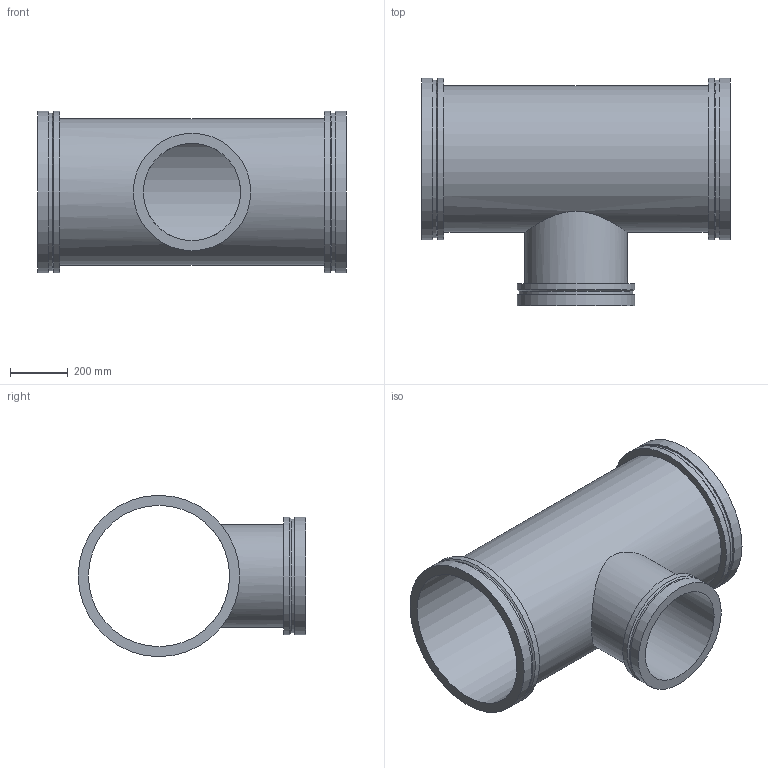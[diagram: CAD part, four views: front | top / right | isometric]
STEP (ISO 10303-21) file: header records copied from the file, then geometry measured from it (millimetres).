
FILE_DESCRIPTION(/* description */ ('VIC REDUCING TEE No W025 VR','CAx-IF Rec.Pracs.---Representation and Presentation of Product Manufacturing Information (PMI)---4.0---2014-10-13'),/* implementation_level */ '2;1');
FILE_NAME(/* name */ 'C:\Users\kkamble\AppData\Roaming\Autodesk\ApplicationPlugins\Back Up\Victaulic_Vic-Ring_Tee Reducing_No W25 VR (AGR)\Victaulic_Vic-Ring_Tee Reducing_No W25 VR (AGR)_20.0x14.0 (500x350).stp',/* time_stamp */ '2020-09-10T11:52:50+05:00',/* author */ ('mchristi'),/* organization */ ('Victaulic'),/* preprocessor_version */ 'ST-DEVELOPER v17.2',/* originating_system */ 'Autodesk Inventor 2019',/* authorisation */ '');
FILE_SCHEMA (('AP242_MANAGED_MODEL_BASED_3D_ENGINEERING_MIM_LF { 1 0 10303 442 1 1 4 }'));
Length unit declared in the file: inch
Products named in the file (1): W25 VR-20.0x14.0
Bounding box: 1066.8 x 787.4 x 558.8 mm (x, y, z)
Volume: 26354004.7 mm3; surface area: 4124201.1 mm2
Topology: 1 solids, 1 shells, 25 faces, 68 edges, 52 vertices
Faces by surface type: cylinder 13, plane 9, cone 3
Full cylindrical faces by diameter (mm): 336.55 x1, 355.6 x1, 393.7 x1, 406.4 x2, 488.95 x1, 508 x1, 546.1 x2, 558.8 x4
Entity records: 1179 total; most frequent: CARTESIAN_POINT 335, DIRECTION 190, ORIENTED_EDGE 136, AXIS2_PLACEMENT_3D 87, EDGE_CURVE 68, VERTEX_POINT 52, CIRCLE 48, EDGE_LOOP 36
